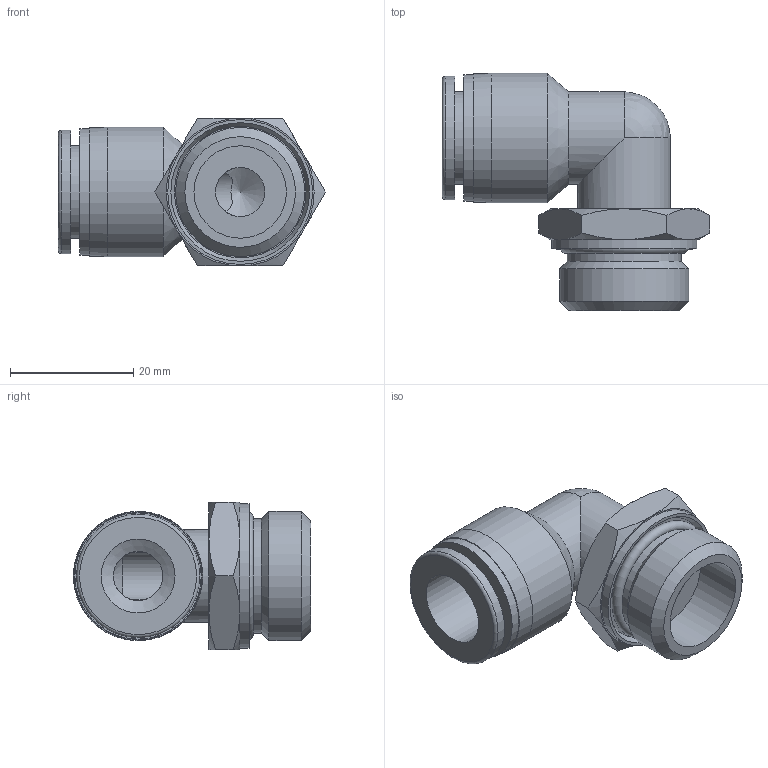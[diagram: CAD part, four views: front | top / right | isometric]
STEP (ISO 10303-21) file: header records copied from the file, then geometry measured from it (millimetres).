
FILE_DESCRIPTION(/* description */ (''),/* implementation_level */ '2;1');
FILE_NAME(/* name */ 'S:\_Tecnico\ArchivioUT\DISEGNI\DISEGNI 3D per ingombri\RP\RP 72\RP721212.stp',/* time_stamp */ '2018-11-08T17:33:02+01:00',/* author */ ('UfficioTecnico'),/* organization */ (''),/* preprocessor_version */ 'ST-DEVELOPER v16.1',/* originating_system */ 'Autodesk Inventor 2016',/* authorisation */ '');
FILE_SCHEMA (('AUTOMOTIVE_DESIGN { 1 0 10303 214 3 1 1 }'));
Length unit declared in the file: millimetre
Products named in the file (1): RP721212
Bounding box: 43.36 x 38.5 x 24 mm (x, y, z)
Volume: 11142.5 mm3; surface area: 6778.4 mm2
Topology: 1 solids, 2 shells, 59 faces, 124 edges, 74 vertices
Faces by surface type: cone 21, plane 18, cylinder 16, torus 3, sphere 1
Full cylindrical faces by diameter (mm): 8 x2, 12 x1, 15 x4, 18.5 x2, 20 x1, 20.5 x1, 20.955 x1, 21 x1, 23.5 x1
Entity records: 1454 total; most frequent: CARTESIAN_POINT 294, DIRECTION 238, ORIENTED_EDGE 180, AXIS2_PLACEMENT_3D 116, EDGE_LOOP 94, EDGE_CURVE 89, VERTEX_POINT 65, FACE_OUTER_BOUND 59
